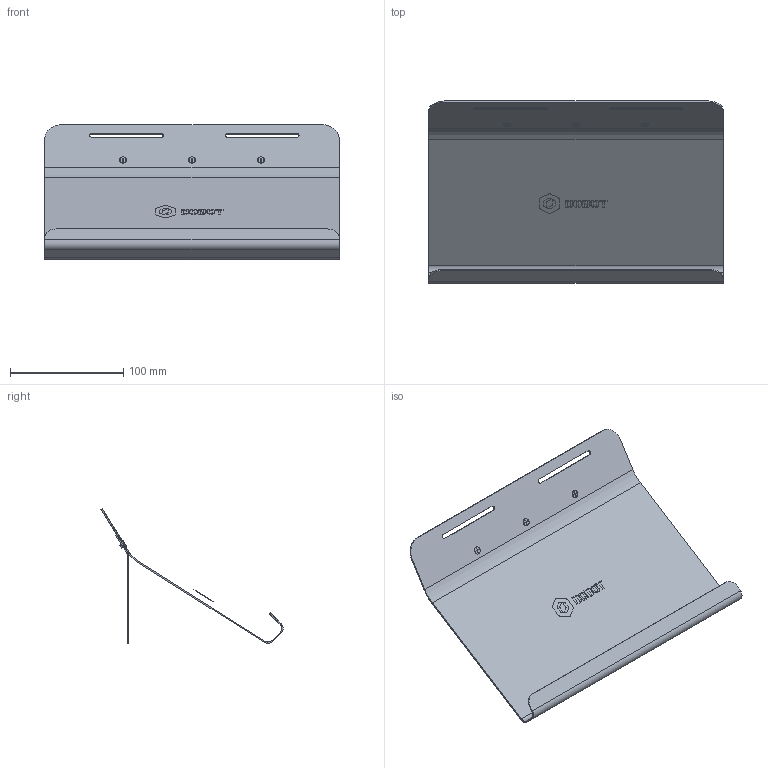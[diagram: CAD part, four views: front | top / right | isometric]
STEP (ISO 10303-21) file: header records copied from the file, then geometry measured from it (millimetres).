
FILE_DESCRIPTION(/* description */ (''),/* implementation_level */ '2;1');
FILE_NAME(/* name */ '示教器支架-20231008',/* time_stamp */ '2023-10-08T18:47:33+08:00',/* author */ (''),/* organization */ (''),/* preprocessor_version */ 'ST-DEVELOPER v16.5',/* originating_system */ '',/* authorisation */ '');
FILE_SCHEMA (('AUTOMOTIVE_DESIGN'));
Length unit declared in the file: millimetre
Products named in the file (1): Document
Bounding box: 260 x 160.87 x 119.05 mm (x, y, z)
Volume: 89598.6 mm3; surface area: 151876.2 mm2
Topology: 5 solids, 12 shells, 108 faces, 337 edges, 249 vertices
Faces by surface type: plane 60, bspline 48
Entity records: 3735 total; most frequent: CARTESIAN_POINT 1700, ORIENTED_EDGE 594, EDGE_CURVE 336, VERTEX_POINT 248, B_SPLINE_CURVE_WITH_KNOTS 202, EDGE_LOOP 120, ADVANCED_FACE 108, FACE_OUTER_BOUND 108
